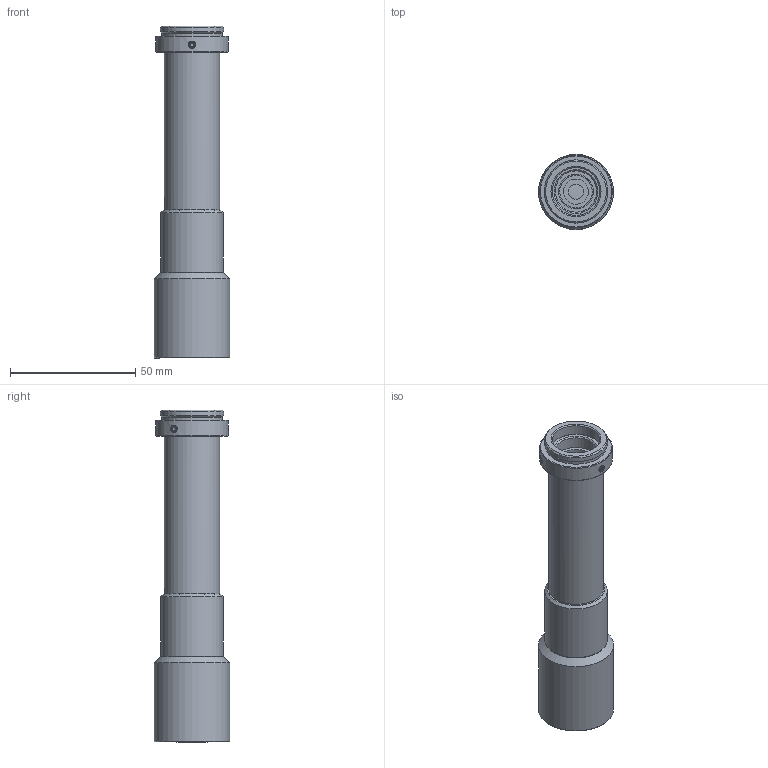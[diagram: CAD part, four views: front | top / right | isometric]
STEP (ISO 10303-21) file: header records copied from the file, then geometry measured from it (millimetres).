
FILE_DESCRIPTION(('STEP AP214'),'1');
FILE_NAME('RTK-4-M110.stp','2026-08-03T02:40:14',(' '),(' '),'Spatial InterOp 3D',' ',' ');
FILE_SCHEMA(('AUTOMOTIVE_DESIGN { 1 0 10303 214 1 1 1 1 }'));
Length unit declared in the file: metre
Products named in the file (2): RTK-4-M110; Component1
Assembly tree (1 placements, depth 2):
  RTK-4-M110
    Component1
Bounding box: 30 x 30 x 132.67 mm (x, y, z)
Volume: 36006.9 mm3; surface area: 22047.7 mm2
Topology: 1 solids, 7 shells, 162 faces, 346 edges, 229 vertices
Faces by surface type: plane 64, cone 55, cylinder 38, bspline 3, sphere 2
Full cylindrical faces by diameter (mm): 6 x1, 10 x2, 12 x2, 13 x1, 13.4 x1, 13.9 x1, 14.2 x1, 14.7 x1, 16.5 x3, 17.2 x1, 17.4 x2, 18.2 x1, 19 x2, 19.02 x1, 20.2 x1, 20.4 x1, 21.2 x1, 22 x6, 24.12 x1, 25 x3, 25.32 x1, 27 x1, 27.8 x1, 29 x1, 30 x1
Entity records: 5634 total; most frequent: CARTESIAN_POINT 1212, DIRECTION 656, ORIENTED_EDGE 486, AXIS2_PLACEMENT_3D 292, EDGE_LOOP 278, EDGE_CURVE 243, FACE_OUTER_BOUND 202, VERTEX_POINT 201
